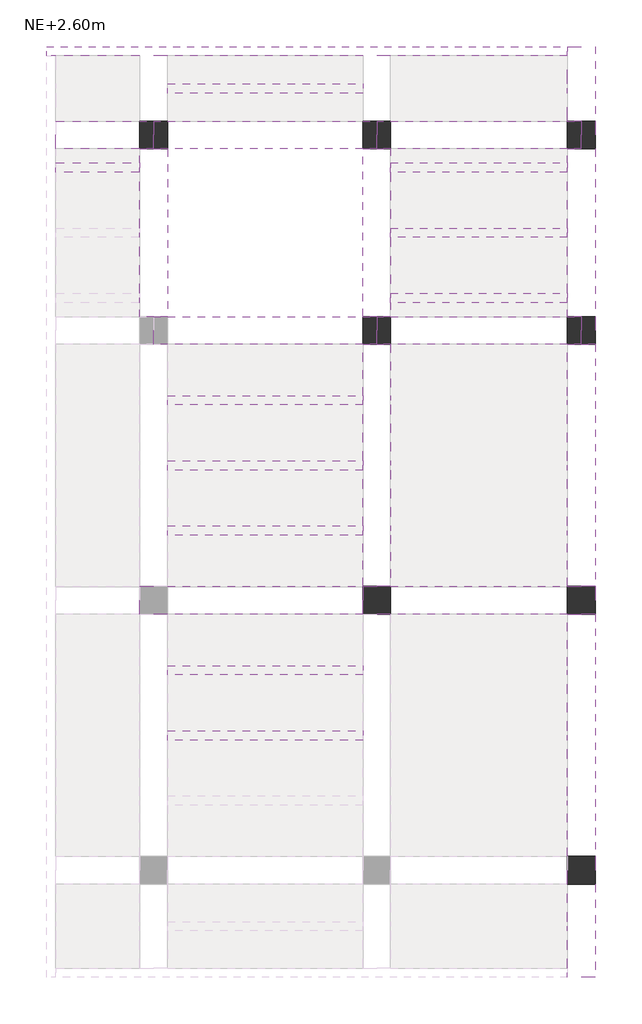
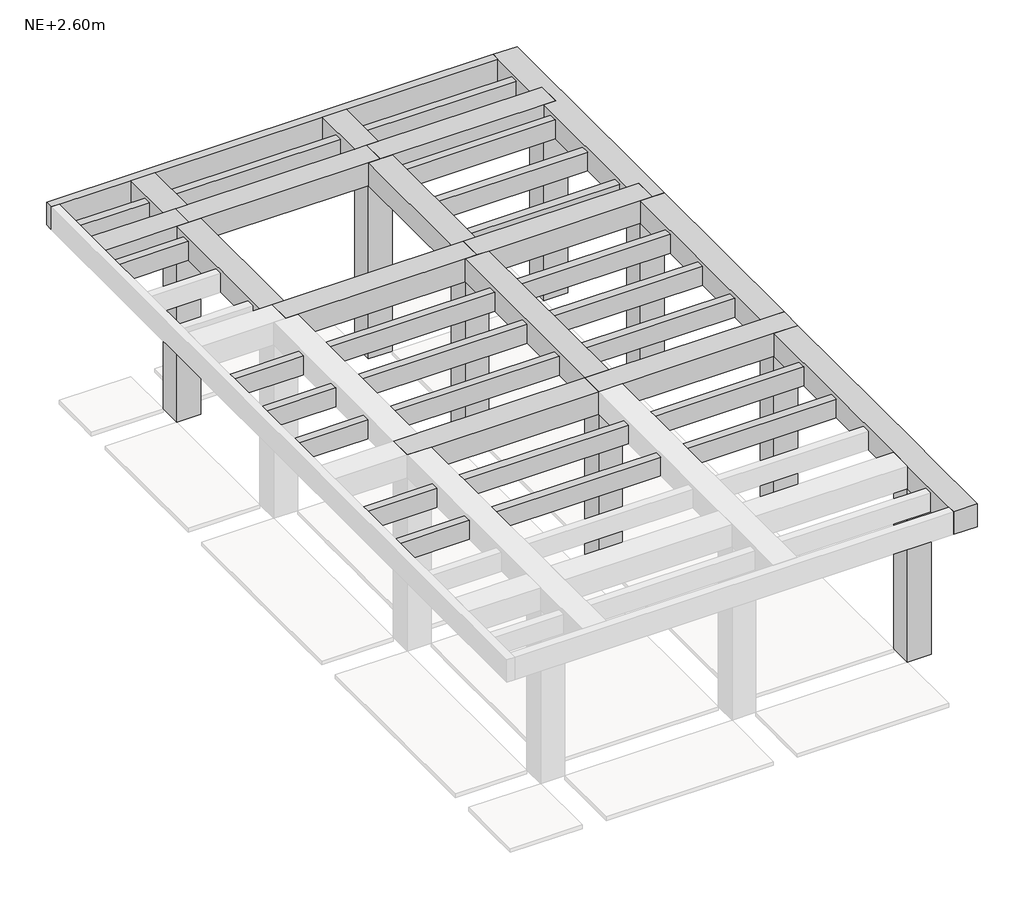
# One storey, part 2 of 2: 24 beams, 8 columns.
"""IFC4 building model written with IfcOpenShell, lengths in millimetres."""

import ifcopenshell
import ifcopenshell.guid

model = None  # the IFC model being written
_history = None  # IfcOwnerHistory: only IFC2X3 demands one
_inside = {}  # id of a spatial element -> (the spatial element, [elements in it])
_under = {}  # id of a project, library or spatial element -> (it, [spatial elements below it])
_declared = {}  # id of a project -> (the project, [libraries it declares])
_typed = {}  # id of a type object -> (the type object, [elements of that type])
_made_of = {}  # id of a material, layer set ... -> (it, [elements and type objects made of it])


def new_model(schema):
    """Start an empty IFC model of exactly this schema.

    Asked for "IFC4X3", IfcOpenShell would pick the latest addendum, in which some entities
    have other attributes; the version numbers below select the first issue.
    IFC2X3 requires an IfcOwnerHistory on every rooted entity: one is made here for all.
    """
    global model, _history
    if schema == "IFC4X3":
        model = ifcopenshell.file(schema_version=(4, 3, 0, 0))
    else:
        model = ifcopenshell.file(schema=schema)
    _inside.clear()
    _under.clear()
    _declared.clear()
    _typed.clear()
    _made_of.clear()
    _history = None
    if model.schema == "IFC2X3":
        org = make("IfcOrganization", Name="unknown")
        user = make(
            "IfcPersonAndOrganization",
            ThePerson=make("IfcPerson", FamilyName="unknown"),
            TheOrganization=org,
        )
        app = make(
            "IfcApplication",
            ApplicationDeveloper=org,
            Version="unknown",
            ApplicationFullName="unknown",
            ApplicationIdentifier="unknown",
        )
        _history = make(
            "IfcOwnerHistory",
            OwningUser=user,
            OwningApplication=app,
            ChangeAction="ADDED",
            CreationDate=0,
        )
    return model


def make(cls, **values):
    """One entity of the class cls with the attributes given. An attribute that is None is left unset."""
    return model.create_entity(
        cls, **{name: value for name, value in values.items() if value is not None}
    )


def rooted(cls, **values):
    """An entity with a GlobalId (a new one), such as an element, a storey or a relation."""
    return make(cls, GlobalId=ifcopenshell.guid.new(), OwnerHistory=_history, **values)


def si_unit(unit_type, name, prefix=None):
    """IfcSIUnit, for example si_unit("LENGTHUNIT", "METRE", prefix="MILLI")."""
    return make("IfcSIUnit", UnitType=unit_type, Prefix=prefix, Name=name)


def assignment(units):
    """IfcUnitAssignment: the units of a project."""
    return None if units is None else make("IfcUnitAssignment", Units=units)


def point(xyz):
    """IfcCartesianPoint."""
    return None if xyz is None else make("IfcCartesianPoint", Coordinates=xyz)


def direction(xyz):
    """IfcDirection."""
    return None if xyz is None else make("IfcDirection", DirectionRatios=xyz)


def frame(location, z_axis=None, x_axis=None):
    """IfcAxis2Placement3D, a coordinate frame: its origin and axes. An axis left out is left unset."""
    return make(
        "IfcAxis2Placement3D",
        Location=point(location),
        Axis=direction(z_axis),
        RefDirection=direction(x_axis),
    )


def origin():
    """The frame at (0, 0, 0) with its axes left unset."""
    return frame((0.0, 0.0, 0.0))


def place(relative_to, where):
    """IfcLocalPlacement: puts the frame where relative to a parent placement (None: the world)."""
    return make(
        "IfcLocalPlacement", PlacementRelTo=relative_to, RelativePlacement=where
    )


def context(
    kind, dimensions, precision=None, world=None, true_north=None, identifier=None
):
    """IfcGeometricRepresentationContext, for example the 3D "Model" context."""
    return make(
        "IfcGeometricRepresentationContext",
        ContextIdentifier=identifier,
        ContextType=kind,
        CoordinateSpaceDimension=dimensions,
        Precision=precision,
        WorldCoordinateSystem=world,
        TrueNorth=true_north,
    )


def project(units=None, contexts=None):
    """IfcProject with its units and contexts."""
    return rooted(
        "IfcProject",
        Name="project",
        RepresentationContexts=contexts,
        UnitsInContext=assignment(units),
    )


def spatial(cls, under=None, at=None, **own):
    """A site, building, storey or space (cls), placed at a placement, below another one or the project."""
    s = rooted(cls, ObjectPlacement=at, **own)
    if under is not None:
        _under.setdefault(under.id(), (under, []))[1].append(s)
    return s


def polyline(points):
    """IfcPolyline through the points."""
    return make("IfcPolyline", Points=[point(p) for p in points])


def outline(outer, holes=None, kind="AREA"):
    """IfcArbitraryClosedProfileDef: a profile drawn as a closed curve; with holes, ...WithVoids."""
    if holes is None:
        return make("IfcArbitraryClosedProfileDef", ProfileType=kind, OuterCurve=outer)
    return make(
        "IfcArbitraryProfileDefWithVoids",
        ProfileType=kind,
        OuterCurve=outer,
        InnerCurves=holes,
    )


def extrude(swept, where, along, depth):
    """IfcExtrudedAreaSolid: the profile swept, set in the frame where, extruded along a direction by depth."""
    return make(
        "IfcExtrudedAreaSolid",
        SweptArea=swept,
        Position=where,
        ExtrudedDirection=direction(along),
        Depth=depth,
    )


def faces_of(points, faces, orient=None, outer=None):
    """IfcFace entities. A face is a list of loops; a loop is a list of indices into points, from 0.

    orient and outer hold one flag for each loop. By default every Orientation is true, the
    first loop of a face is its IfcFaceOuterBound and the others are IfcFaceBound.
    """
    made = []
    for i, loops in enumerate(faces):
        bounds = []
        for j, loop in enumerate(loops):
            is_outer = j == 0 if outer is None else outer[i][j]
            bounds.append(
                make(
                    "IfcFaceOuterBound" if is_outer else "IfcFaceBound",
                    Bound=make("IfcPolyLoop", Polygon=[points[k] for k in loop]),
                    Orientation=True if orient is None else orient[i][j],
                )
            )
        made.append(make("IfcFace", Bounds=bounds))
    return made


def faceted_brep(points, faces, orient=None, outer=None, voids=None):
    """IfcFacetedBrep: a solid bounded by flat faces; with voids (closed shells), ...WithVoids."""
    shared = [point(p) for p in points]
    hull = make("IfcClosedShell", CfsFaces=faces_of(shared, faces, orient, outer))
    if voids is None:
        return make("IfcFacetedBrep", Outer=hull)
    return make(
        "IfcFacetedBrepWithVoids",
        Outer=hull,
        Voids=[
            make(cls, CfsFaces=faces_of(shared, fs, o, b)) for cls, fs, o, b in voids
        ],
    )


def shape(context_of_items, identifier, shape_type, items):
    """IfcShapeRepresentation: the items that make up one representation, for example the "Body"."""
    return make(
        "IfcShapeRepresentation",
        ContextOfItems=context_of_items,
        RepresentationIdentifier=identifier,
        RepresentationType=shape_type,
        Items=items,
    )


def made_of(thing, what):
    """Note that an element or type object is made of a material, layer set ...; save() writes the relation."""
    if what is not None:
        _made_of.setdefault(what.id(), (what, []))[1].append(thing)
    return thing


def element(
    cls,
    number,
    at=None,
    inside=None,
    cuts=None,
    type_object=None,
    material=None,
    context=None,
    identifier="Body",
    shape_type=None,
    held_by="IfcProductDefinitionShape",
    body=None,
    shapes=None,
    **own,
):
    """One element of the class cls, such as IfcWall. Its Tag is "e" and its number.

    at: its placement. inside: the storey or other place that contains it. cuts: it is an
    opening in that element (IfcRelVoidsElement). A single representation is given by context,
    identifier, shape_type and body (its items); several are given by shapes. held_by: the class
    of the entity that holds the representations. save() writes the other relations.
    """
    e = rooted(cls, Tag="e%d" % number, ObjectPlacement=at, **own)
    if body is not None:
        shapes = [shape(context, identifier, shape_type, body)]
    if shapes is not None:
        e.Representation = make(held_by, Representations=shapes)
    if inside is not None:
        _inside.setdefault(inside.id(), (inside, []))[1].append(e)
    if cuts is not None:
        rooted(
            "IfcRelVoidsElement", RelatingBuildingElement=cuts, RelatedOpeningElement=e
        )
    if type_object is not None:
        _typed.setdefault(type_object.id(), (type_object, []))[1].append(e)
    return made_of(e, material)


def aggregate(whole, parts):
    """IfcRelAggregates: a whole, such as a stair, and the parts it consists of."""
    return rooted("IfcRelAggregates", RelatingObject=whole, RelatedObjects=parts)


def save(model, path):
    """Write the relations noted so far, then the file.

    IfcRelAggregates (storeys below a building ...), IfcRelContainedInSpatialStructure (elements
    in a storey), IfcRelDefinesByType, IfcRelAssociatesMaterial and IfcRelDeclares: one each for
    every whole, place, type object, material and project.
    """
    for whole, parts in _under.values():
        aggregate(whole, parts)
    for where, things in _inside.values():
        rooted(
            "IfcRelContainedInSpatialStructure",
            RelatedElements=things,
            RelatingStructure=where,
        )
    for kind, things in _typed.values():
        rooted("IfcRelDefinesByType", RelatedObjects=things, RelatingType=kind)
    for what, things in _made_of.values():
        rooted("IfcRelAssociatesMaterial", RelatedObjects=things, RelatingMaterial=what)
    for by, libraries in _declared.values():
        rooted("IfcRelDeclares", RelatingContext=by, RelatedDefinitions=libraries)
    model.write(path)


model = new_model("IFC4")

# Units and contexts
model_context = context("Model", 3, world=origin())
ifc_project = project(units=[si_unit("LENGTHUNIT", "METRE", prefix="MILLI")], contexts=[model_context])

# Site, building, storey
site = spatial("IfcSite", under=ifc_project)
building = spatial("IfcBuilding", under=site)
storey = spatial("IfcBuildingStorey", under=building, Name="NE+2.60m", Elevation=2600.0)

# Beams
placement = place(None, origin())
element("IfcBeam", 1, ObjectType="Hormigón-Viga rectangular : VA (0.30x0.30m)", at=placement, inside=storey, context=model_context, shape_type="Brep", body=[
    faceted_brep([(1502.3188918, 1062.8132138, 5200.0), (1502.3188918, 762.8132138, 5200.0), (1652.3188918, 762.8132138, 5200.0), (3552.3188918, 762.8132138, 5200.0), (3702.3188918, 762.8132138, 5200.0), (3702.3188918, 1062.8132138, 5200.0), (3552.3188918, 1062.8132138, 5200.0), (1652.3188918, 1062.8132138, 5200.0), (3702.3188918, 1062.8132138, 4900.0), (3552.3188918, 1062.8132138, 4900.0), (1652.3188918, 1062.8132138, 4900.0), (1502.3188918, 1062.8132138, 4900.0), (3702.3188918, 762.8132138, 4900.0), (3552.3188918, 762.8132138, 4900.0), (1652.3188918, 762.8132138, 4900.0), (1502.3188918, 762.8132138, 4900.0)], [[[0, 1, 2, 3, 4, 5, 6, 7]], [[8, 9, 10, 11, 0, 7, 6, 5]], [[11, 10, 9, 8, 12, 13, 14, 15]], [[15, 14, 13, 12, 4, 3, 2, 1]], [[1, 0, 11, 15]], [[4, 12, 8, 5]]]),
])
element("IfcBeam", 2, ObjectType="Hormigón-Viga rectangular : VA (0.30x0.30m)", at=placement, inside=storey, context=model_context, shape_type="Brep", body=[
    faceted_brep([(-897.6811082, 762.8132138, 5200.0), (-747.6811082, 762.8132138, 5200.0), (1352.3188918, 762.8132138, 5200.0), (1502.3188918, 762.8132138, 5200.0), (1502.3188918, 1062.8132138, 5200.0), (1352.3188918, 1062.8132138, 5200.0), (-747.6811082, 1062.8132138, 5200.0), (-897.6811082, 1062.8132138, 5200.0), (1502.3188918, 1062.8132138, 4900.0), (1352.3188918, 1062.8132138, 4900.0), (-747.6811082, 1062.8132138, 4900.0), (-897.6811082, 1062.8132138, 4900.0), (1502.3188918, 762.8132138, 4900.0), (1352.3188918, 762.8132138, 4900.0), (-747.6811082, 762.8132138, 4900.0), (-897.6811082, 762.8132138, 4900.0)], [[[0, 1, 2, 3, 4, 5, 6, 7]], [[8, 9, 10, 11, 7, 6, 5, 4]], [[11, 10, 9, 8, 12, 13, 14, 15]], [[3, 2, 1, 0, 15, 14, 13, 12]], [[0, 7, 11, 15]], [[3, 12, 8, 4]]]),
])
element("IfcBeam", 3, ObjectType="Hormigón-Viga rectangular : VA (0.30x0.30m)", at=placement, inside=storey, context=model_context, shape_type="Brep", body=[
    faceted_brep([(-897.6811082, 762.8132138, 5200.0), (-897.6811082, 1062.8132138, 5200.0), (-1047.6811082, 1062.8132138, 5200.0), (-1947.6811082, 1062.8132138, 5200.0), (-1947.6811082, 762.8132138, 5200.0), (-1047.6811082, 762.8132138, 5200.0), (-897.6811082, 1062.8132138, 4900.0), (-1047.6811082, 1062.8132138, 4900.0), (-1947.6811082, 1062.8132138, 4900.0), (-1947.6811082, 1062.8132138, 5150.0), (-897.6811082, 762.8132138, 4900.0), (-1047.6811082, 762.8132138, 4900.0), (-1947.6811082, 762.8132138, 4900.0), (-1947.6811082, 762.8132138, 5150.0)], [[[0, 1, 2, 3, 4, 5]], [[1, 6, 7, 8, 9, 3, 2]], [[6, 10, 11, 12, 8, 7]], [[10, 0, 5, 4, 13, 12, 11]], [[0, 10, 6, 1]], [[4, 3, 9, 8, 12, 13]]]),
])
element("IfcBeam", 4, ObjectType="Hormigón-Viga rectangular : VA (0.30x0.30m)", at=placement, inside=storey, context=model_context, shape_type="Brep", body=[
    faceted_brep([(1502.3188918, -1037.1867862, 5200.0), (1502.3188918, -1337.1867862, 5200.0), (1652.3188918, -1337.1867862, 5200.0), (3552.3188918, -1337.1867862, 5200.0), (3702.3188918, -1337.1867862, 5200.0), (3702.3188918, -1037.1867862, 5200.0), (3552.3188918, -1037.1867862, 5200.0), (1652.3188918, -1037.1867862, 5200.0), (3702.3188918, -1037.1867862, 4900.0), (3552.3188918, -1037.1867862, 4900.0), (1652.3188918, -1037.1867862, 4900.0), (1502.3188918, -1037.1867862, 4900.0), (3702.3188918, -1337.1867862, 4900.0), (3552.3188918, -1337.1867862, 4900.0), (1652.3188918, -1337.1867862, 4900.0), (1502.3188918, -1337.1867862, 4900.0)], [[[0, 1, 2, 3, 4, 5, 6, 7]], [[8, 9, 10, 11, 0, 7, 6, 5]], [[11, 10, 9, 8, 12, 13, 14, 15]], [[15, 14, 13, 12, 4, 3, 2, 1]], [[1, 0, 11, 15]], [[4, 12, 8, 5]]]),
])
element("IfcBeam", 5, ObjectType="Hormigón-Viga rectangular : VA (0.30x0.30m)", at=placement, inside=storey, context=model_context, shape_type="Brep", body=[
    faceted_brep([(1502.3188918, -1037.1867862, 5200.0), (1352.3188918, -1037.1867862, 5200.0), (-747.6811082, -1037.1867862, 5200.0), (-897.6811082, -1037.1867862, 5200.0), (-897.6811082, -1337.1867862, 5200.0), (-747.6811082, -1337.1867862, 5200.0), (1352.3188918, -1337.1867862, 5200.0), (1502.3188918, -1337.1867862, 5200.0), (1502.3188918, -1037.1867862, 4900.0), (1352.3188918, -1037.1867862, 4900.0), (-747.6811082, -1037.1867862, 4900.0), (-897.6811082, -1037.1867862, 4900.0), (1502.3188918, -1337.1867862, 4900.0), (1352.3188918, -1337.1867862, 4900.0), (-747.6811082, -1337.1867862, 4900.0), (-897.6811082, -1337.1867862, 4900.0)], [[[0, 1, 2, 3, 4, 5, 6, 7]], [[3, 2, 1, 0, 8, 9, 10, 11]], [[11, 10, 9, 8, 12, 13, 14, 15]], [[15, 14, 13, 12, 7, 6, 5, 4]], [[4, 3, 11, 15]], [[7, 12, 8, 0]]]),
])
element("IfcBeam", 6, ObjectType="Hormigón-Viga rectangular : VA (0.30x0.30m)", at=placement, inside=storey, context=model_context, shape_type="Brep", body=[
    faceted_brep([(3852.3188918, -4237.1867862, 5200.0), (3852.3188918, -3937.1867862, 5200.0), (3552.3188918, -3937.1867862, 5200.0), (1652.3188918, -3937.1867862, 5200.0), (1352.3188918, -3937.1867862, 5200.0), (1352.3188918, -4237.1867862, 5200.0), (1652.3188918, -4237.1867862, 5200.0), (3552.3188918, -4237.1867862, 5200.0), (3852.3188918, -3937.1867862, 4900.0), (3552.3188918, -3937.1867862, 4900.0), (1652.3188918, -3937.1867862, 4900.0), (1352.3188918, -3937.1867862, 4900.0), (1352.3188918, -3937.1867862, 5150.0), (3852.3188918, -4237.1867862, 4900.0), (3552.3188918, -4237.1867862, 4900.0), (1652.3188918, -4237.1867862, 4900.0), (1352.3188918, -4237.1867862, 4900.0), (1352.3188918, -4237.1867862, 5150.0)], [[[0, 1, 2, 3, 4, 5, 6, 7]], [[1, 8, 9, 10, 11, 12, 4, 3, 2]], [[8, 13, 14, 15, 16, 11, 10, 9]], [[13, 0, 7, 6, 5, 17, 16, 15, 14]], [[1, 0, 13, 8]], [[5, 4, 12, 11, 16, 17]]]),
])
element("IfcBeam", 7, ObjectType="Hormigón-Viga rectangular : VA (0.30x0.30m)", at=placement, inside=storey, context=model_context, shape_type="Brep", body=[
    faceted_brep([(1352.3188918, -4237.1867862, 5200.0), (1352.3188918, -3937.1867862, 5200.0), (-747.6811082, -3937.1867862, 5200.0), (-1047.6811082, -3937.1867862, 5200.0), (-1047.6811082, -4237.1867862, 5200.0), (-747.6811082, -4237.1867862, 5200.0), (1352.3188918, -3937.1867862, 4900.0), (-747.6811082, -3937.1867862, 4900.0), (-1047.6811082, -3937.1867862, 4900.0), (-1047.6811082, -3937.1867862, 5150.0), (1352.3188918, -3937.1867862, 5150.0), (1352.3188918, -4237.1867862, 4900.0), (-747.6811082, -4237.1867862, 4900.0), (-1047.6811082, -4237.1867862, 4900.0), (1352.3188918, -4237.1867862, 5150.0), (-1047.6811082, -4237.1867862, 5150.0)], [[[0, 1, 2, 3, 4, 5]], [[6, 7, 8, 9, 3, 2, 1, 10]], [[6, 11, 12, 13, 8, 7]], [[13, 12, 11, 14, 0, 5, 4, 15]], [[1, 0, 14, 11, 6, 10]], [[4, 3, 9, 8, 13, 15]]]),
])
element("IfcBeam", 8, ObjectType="Hormigón-Viga rectangular : VA (0.30x0.30m)", at=placement, inside=storey, context=model_context, shape_type="Brep", body=[
    faceted_brep([(3702.3188918, 762.8132138, 5200.0), (3552.3188918, 762.8132138, 5200.0), (3552.3188918, -1037.1867862, 5200.0), (3702.3188918, -1037.1867862, 5200.0), (3702.3188918, -1337.1867862, 5200.0), (3852.3188918, -1337.1867862, 5200.0), (3852.3188918, -1037.1867862, 5200.0), (3852.3188918, 762.8132138, 5200.0), (3852.3188918, 1062.8132138, 5200.0), (3852.3188918, 1862.8132138, 5200.0), (3552.3188918, 1862.8132138, 5200.0), (3552.3188918, 1762.8132138, 5200.0), (3552.3188918, 1062.8132138, 5200.0), (3702.3188918, 1062.8132138, 5200.0), (3552.3188918, 1062.8132138, 4900.0), (3552.3188918, 1062.8132138, 5150.0), (3552.3188918, 1862.8132138, 4900.0), (3552.3188918, 1762.8132138, 4900.0), (3552.3188918, 1462.8132138, 4900.0), (3552.3188918, 1362.8132138, 4900.0), (3552.3188918, 762.8132138, 4900.0), (3702.3188918, 762.8132138, 4900.0), (3702.3188918, 1062.8132138, 4900.0), (3852.3188918, 1862.8132138, 4900.0), (3852.3188918, 1062.8132138, 4900.0), (3852.3188918, 762.8132138, 4900.0), (3852.3188918, -1037.1867862, 4900.0), (3852.3188918, -1337.1867862, 4900.0), (3702.3188918, -1337.1867862, 4900.0), (3702.3188918, -1037.1867862, 4900.0), (3552.3188918, -1037.1867862, 4900.0), (3552.3188918, -887.1867862, 4900.0), (3552.3188918, -787.1867862, 4900.0), (3552.3188918, -187.1867862, 4900.0), (3552.3188918, -87.1867862, 4900.0), (3552.3188918, 512.8132138, 4900.0), (3552.3188918, 612.8132138, 4900.0), (3552.3188918, 762.8132138, 5150.0), (3552.3188918, -1037.1867862, 5150.0)], [[[0, 1, 2, 3, 4, 5, 6, 7, 8, 9, 10, 11, 12, 13]], [[14, 15, 12, 11, 10, 16, 17, 18, 19]], [[20, 21, 22, 14, 19, 18, 17, 16, 23, 24, 25, 26, 27, 28, 29, 30, 31, 32, 33, 34, 35, 36]], [[5, 27, 26, 25, 24, 23, 9, 8, 7, 6]], [[27, 5, 4, 28]], [[0, 21, 20, 37, 1]], [[13, 22, 21, 0]], [[29, 3, 2, 38, 30]], [[3, 29, 28, 4]], [[22, 13, 12, 15, 14]], [[1, 37, 20, 36, 35, 34, 33, 32, 31, 30, 38, 2]], [[10, 9, 23, 16]]]),
])
element("IfcBeam", 9, ObjectType="Hormigón-Viga rectangular : VA (0.30x0.30m)", at=placement, inside=storey, context=model_context, shape_type="Brep", body=[
    faceted_brep([(3552.3188918, -3937.1867862, 5200.0), (3852.3188918, -3937.1867862, 5200.0), (3852.3188918, -1337.1867862, 5200.0), (3702.3188918, -1337.1867862, 5200.0), (3552.3188918, -1337.1867862, 5200.0), (3552.3188918, -3937.1867862, 4900.0), (3552.3188918, -3937.1867862, 5150.0), (3552.3188918, -1337.1867862, 5150.0), (3552.3188918, -1337.1867862, 4900.0), (3552.3188918, -1887.1867862, 4900.0), (3552.3188918, -1987.1867862, 4900.0), (3552.3188918, -2587.1867862, 4900.0), (3552.3188918, -2687.1867862, 4900.0), (3552.3188918, -3287.1867862, 4900.0), (3552.3188918, -3387.1867862, 4900.0), (3852.3188918, -3937.1867862, 4900.0), (3702.3188918, -1337.1867862, 4900.0), (3852.3188918, -1337.1867862, 4900.0)], [[[0, 1, 2, 3, 4]], [[5, 6, 0, 4, 7, 8, 9, 10, 11, 12, 13, 14]], [[15, 5, 14, 13, 12, 11, 10, 9, 8, 16, 17]], [[1, 15, 17, 2]], [[1, 0, 6, 5, 15]], [[2, 17, 16, 8, 7, 4, 3]]]),
])
element("IfcBeam", 10, ObjectType="Hormigón-Viga rectangular : VA (0.30x0.30m)", at=placement, inside=storey, context=model_context, shape_type="Brep", body=[
    faceted_brep([(3552.3188918, -8137.1867862, 5200.0), (3852.3188918, -8137.1867862, 5200.0), (3852.3188918, -7137.1867862, 5200.0), (3852.3188918, -6837.1867862, 5200.0), (3852.3188918, -4237.1867862, 5200.0), (3552.3188918, -4237.1867862, 5200.0), (3552.3188918, -6837.1867862, 5200.0), (3552.3188918, -7137.1867862, 5200.0), (3552.3188918, -8037.1867862, 5200.0), (3552.3188918, -8137.1867862, 4900.0), (3552.3188918, -4237.1867862, 5150.0), (3552.3188918, -4237.1867862, 4900.0), (3552.3188918, -4787.1867862, 4900.0), (3552.3188918, -4887.1867862, 4900.0), (3552.3188918, -5487.1867862, 4900.0), (3552.3188918, -5587.1867862, 4900.0), (3552.3188918, -6187.1867862, 4900.0), (3552.3188918, -6287.1867862, 4900.0), (3552.3188918, -6837.1867862, 4900.0), (3552.3188918, -7137.1867862, 4900.0), (3552.3188918, -7537.1867862, 4900.0), (3552.3188918, -7637.1867862, 4900.0), (3552.3188918, -8037.1867862, 4900.0), (3852.3188918, -8137.1867862, 4900.0), (3852.3188918, -4237.1867862, 4900.0), (3852.3188918, -6837.1867862, 4900.0), (3852.3188918, -7137.1867862, 4900.0)], [[[0, 1, 2, 3, 4, 5, 6, 7, 8]], [[9, 0, 8, 7, 6, 5, 10, 11, 12, 13, 14, 15, 16, 17, 18, 19, 20, 21, 22]], [[23, 9, 22, 21, 20, 19, 18, 17, 16, 15, 14, 13, 12, 11, 24, 25, 26]], [[1, 23, 26, 25, 24, 4, 3, 2]], [[5, 4, 24, 11, 10]], [[1, 0, 9, 23]]]),
])
element("IfcBeam", 11, ObjectType="Hormigón-Viga rectangular : VA (0.30x0.30m)", at=placement, inside=storey, context=model_context, shape_type="Brep", body=[
    faceted_brep([(1352.3188918, -3937.1867862, 5200.0), (1652.3188918, -3937.1867862, 5200.0), (1652.3188918, -1337.1867862, 5200.0), (1502.3188918, -1337.1867862, 5200.0), (1352.3188918, -1337.1867862, 5200.0), (1652.3188918, -3937.1867862, 5150.0), (1652.3188918, -3937.1867862, 4900.0), (1652.3188918, -3387.1867862, 4900.0), (1652.3188918, -3287.1867862, 4900.0), (1652.3188918, -2687.1867862, 4900.0), (1652.3188918, -2587.1867862, 4900.0), (1652.3188918, -1987.1867862, 4900.0), (1652.3188918, -1887.1867862, 4900.0), (1652.3188918, -1337.1867862, 4900.0), (1652.3188918, -1337.1867862, 5150.0), (1352.3188918, -3937.1867862, 4900.0), (1352.3188918, -3387.1867862, 4900.0), (1352.3188918, -3287.1867862, 4900.0), (1352.3188918, -2687.1867862, 4900.0), (1352.3188918, -2587.1867862, 4900.0), (1352.3188918, -1987.1867862, 4900.0), (1352.3188918, -1887.1867862, 4900.0), (1352.3188918, -1337.1867862, 4900.0), (1502.3188918, -1337.1867862, 4900.0), (1352.3188918, -1337.1867862, 5150.0), (1352.3188918, -3937.1867862, 5150.0)], [[[0, 1, 2, 3, 4]], [[2, 1, 5, 6, 7, 8, 9, 10, 11, 12, 13, 14]], [[6, 15, 16, 17, 18, 19, 20, 21, 22, 23, 13, 12, 11, 10, 9, 8, 7]], [[0, 4, 24, 22, 21, 20, 19, 18, 17, 16, 15, 25]], [[1, 0, 25, 15, 6, 5]], [[4, 3, 2, 14, 13, 23, 22, 24]]]),
])
element("IfcBeam", 12, ObjectType="Hormigón-Viga rectangular : VA (0.30x0.30m)", at=placement, inside=storey, context=model_context, shape_type="Brep", body=[
    faceted_brep([(1352.3188918, -1037.1867862, 5200.0), (1502.3188918, -1037.1867862, 5200.0), (1652.3188918, -1037.1867862, 5200.0), (1652.3188918, 762.8132138, 5200.0), (1502.3188918, 762.8132138, 5200.0), (1352.3188918, 762.8132138, 5200.0), (1652.3188918, -1037.1867862, 5150.0), (1652.3188918, -1037.1867862, 4900.0), (1652.3188918, -887.1867862, 4900.0), (1652.3188918, -787.1867862, 4900.0), (1652.3188918, -187.1867862, 4900.0), (1652.3188918, -87.1867862, 4900.0), (1652.3188918, 512.8132138, 4900.0), (1652.3188918, 612.8132138, 4900.0), (1652.3188918, 762.8132138, 4900.0), (1652.3188918, 762.8132138, 5150.0), (1502.3188918, -1037.1867862, 4900.0), (1352.3188918, -1037.1867862, 4900.0), (1352.3188918, 762.8132138, 4900.0), (1502.3188918, 762.8132138, 4900.0)], [[[0, 1, 2, 3, 4, 5]], [[3, 2, 6, 7, 8, 9, 10, 11, 12, 13, 14, 15]], [[7, 16, 17, 18, 19, 14, 13, 12, 11, 10, 9, 8]], [[17, 0, 5, 18]], [[18, 5, 4, 3, 15, 14, 19]], [[0, 17, 16, 7, 6, 2, 1]]]),
    faceted_brep([(1652.3188918, 1062.8132138, 5200.0), (1502.3188918, 1062.8132138, 5200.0), (1352.3188918, 1062.8132138, 5200.0), (1352.3188918, 1062.8132138, 5150.0), (1352.3188918, 1062.8132138, 4900.0), (1502.3188918, 1062.8132138, 4900.0), (1652.3188918, 1062.8132138, 4900.0), (1652.3188918, 1062.8132138, 5150.0), (1652.3188918, 1762.8132138, 5200.0), (1652.3188918, 1362.8132138, 4900.0), (1652.3188918, 1462.8132138, 4900.0), (1652.3188918, 1762.8132138, 4900.0), (1652.3188918, 1762.8132138, 5150.0), (1352.3188918, 1762.8132138, 5200.0), (1352.3188918, 1362.8132138, 4900.0), (1352.3188918, 1462.8132138, 4900.0), (1352.3188918, 1762.8132138, 4900.0), (1352.3188918, 1762.8132138, 5150.0)], [[[0, 1, 2, 3, 4, 5, 6, 7]], [[8, 0, 7, 6, 9, 10, 11, 12]], [[2, 1, 0, 8, 13]], [[6, 5, 4, 14, 15, 16, 11, 10, 9]], [[2, 13, 17, 16, 15, 14, 4, 3]], [[13, 8, 12, 11, 16, 17]]]),
])
element("IfcBeam", 13, ObjectType="Hormigón-Viga rectangular : VA (0.30x0.30m)", at=placement, inside=storey, context=model_context, shape_type="Brep", body=[
    faceted_brep([(-1047.6811082, 1062.8132138, 5200.0), (-897.6811082, 1062.8132138, 5200.0), (-747.6811082, 1062.8132138, 5200.0), (-747.6811082, 1762.8132138, 5200.0), (-1047.6811082, 1762.8132138, 5200.0), (-1047.6811082, 1762.8132138, 5150.0), (-1047.6811082, 1762.8132138, 4900.0), (-1047.6811082, 1462.8132138, 4900.0), (-1047.6811082, 1362.8132138, 4900.0), (-1047.6811082, 1062.8132138, 4900.0), (-1047.6811082, 1062.8132138, 5150.0), (-747.6811082, 1062.8132138, 4900.0), (-897.6811082, 1062.8132138, 4900.0), (-747.6811082, 1762.8132138, 4900.0), (-747.6811082, 1462.8132138, 4900.0), (-747.6811082, 1362.8132138, 4900.0), (-747.6811082, 1762.8132138, 5150.0), (-747.6811082, 1062.8132138, 5150.0)], [[[0, 1, 2, 3, 4]], [[0, 4, 5, 6, 7, 8, 9, 10]], [[11, 12, 9, 8, 7, 6, 13, 14, 15]], [[11, 15, 14, 13, 16, 3, 2, 17]], [[2, 1, 0, 10, 9, 12, 11, 17]], [[4, 3, 16, 13, 6, 5]]]),
    faceted_brep([(-747.6811082, 762.8132138, 5200.0), (-747.6811082, 762.8132138, 4900.0), (-897.6811082, 762.8132138, 4900.0), (-1047.6811082, 762.8132138, 4900.0), (-1047.6811082, 762.8132138, 5150.0), (-1047.6811082, 762.8132138, 5200.0), (-897.6811082, 762.8132138, 5200.0), (-747.6811082, -1037.1867862, 5200.0), (-897.6811082, -1037.1867862, 5200.0), (-1047.6811082, -1037.1867862, 5200.0), (-1047.6811082, -1037.1867862, 5150.0), (-1047.6811082, -1037.1867862, 4900.0), (-897.6811082, -1037.1867862, 4900.0), (-747.6811082, -1037.1867862, 4900.0), (-1047.6811082, 612.8132138, 4900.0), (-1047.6811082, 512.8132138, 4900.0), (-1047.6811082, -87.1867862, 4900.0), (-1047.6811082, -187.1867862, 4900.0), (-1047.6811082, -787.1867862, 4900.0), (-1047.6811082, -887.1867862, 4900.0)], [[[0, 1, 2, 3, 4, 5, 6]], [[7, 8, 9, 10, 11, 12, 13]], [[1, 0, 7, 13]], [[9, 8, 7, 0, 6, 5]], [[9, 5, 4, 3, 14, 15, 16, 17, 18, 19, 11, 10]], [[13, 12, 11, 19, 18, 17, 16, 15, 14, 3, 2, 1]]]),
])
element("IfcBeam", 14, ObjectType="Hormigón-Viga rectangular : VB (0.10x0.30m)", at=placement, inside=storey, context=model_context, shape_type="Brep", body=[
    faceted_brep([(-2047.6811082, 1862.8132138, 5200.0), (-2047.6811082, 1762.8132138, 5200.0), (-1947.6811082, 1762.8132138, 5200.0), (-1047.6811082, 1762.8132138, 5200.0), (-747.6811082, 1762.8132138, 5200.0), (1352.3188918, 1762.8132138, 5200.0), (1652.3188918, 1762.8132138, 5200.0), (3552.3188918, 1762.8132138, 5200.0), (3552.3188918, 1862.8132138, 5200.0), (-2047.6811082, 1862.8132138, 4900.0), (3552.3188918, 1862.8132138, 4900.0), (-2047.6811082, 1762.8132138, 4900.0), (3552.3188918, 1762.8132138, 4900.0), (1652.3188918, 1762.8132138, 4900.0), (1352.3188918, 1762.8132138, 4900.0), (-747.6811082, 1762.8132138, 4900.0), (-1047.6811082, 1762.8132138, 4900.0), (-1947.6811082, 1762.8132138, 4900.0), (3552.3188918, 1762.8132138, 5150.0)], [[[0, 1, 2, 3, 4, 5, 6, 7, 8]], [[9, 0, 8, 10]], [[11, 9, 10, 12, 13, 14, 15, 16, 17]], [[1, 11, 17, 16, 15, 14, 13, 12, 18, 7, 6, 5, 4, 3, 2]], [[1, 0, 9, 11]], [[8, 7, 18, 12, 10]]]),
])
element("IfcBeam", 15, ObjectType="Hormigón-Viga rectangular : VT (0.10x0.30m)", at=placement, inside=storey, context=model_context, shape_type="SweptSolid", body=[
    extrude(outline(polyline([(3552.3188918, -4787.1867862), (3552.3188918, -4887.1867862), (1652.3188918, -4887.1867862), (1652.3188918, -4787.1867862), (3552.3188918, -4787.1867862)])), frame((0.0, 0.0, 4900.0), z_axis=(0.0, 0.0, 1.0), x_axis=(1.0, 0.0, 0.0)), (0.0, 0.0, 1.0), 250.0),
    extrude(outline(polyline([(-1947.6811082, -4887.1867862), (-1947.6811082, -4787.1867862), (-1047.6811082, -4787.1867862), (-1047.6811082, -4887.1867862), (-1947.6811082, -4887.1867862)])), frame((0.0, 0.0, 4900.0), z_axis=(0.0, 0.0, 1.0), x_axis=(1.0, 0.0, 0.0)), (0.0, 0.0, 1.0), 250.0),
    extrude(outline(polyline([(1352.3188918, -4787.1867862), (1352.3188918, -4887.1867862), (-747.6811082, -4887.1867862), (-747.6811082, -4787.1867862), (1352.3188918, -4787.1867862)])), frame((0.0, 0.0, 4900.0), z_axis=(0.0, 0.0, 1.0), x_axis=(1.0, 0.0, 0.0)), (0.0, 0.0, 1.0), 250.0),
])
element("IfcBeam", 16, ObjectType="Hormigón-Viga rectangular : VT (0.10x0.30m)", at=placement, inside=storey, context=model_context, shape_type="SweptSolid", body=[
    extrude(outline(polyline([(3552.3188918, -5487.1867862), (3552.3188918, -5587.1867862), (1652.3188918, -5587.1867862), (1652.3188918, -5487.1867862), (3552.3188918, -5487.1867862)])), frame((0.0, 0.0, 4900.0), z_axis=(0.0, 0.0, 1.0), x_axis=(1.0, 0.0, 0.0)), (0.0, 0.0, 1.0), 250.0),
    extrude(outline(polyline([(-1947.6811082, -5587.1867862), (-1947.6811082, -5487.1867862), (-1047.6811082, -5487.1867862), (-1047.6811082, -5587.1867862), (-1947.6811082, -5587.1867862)])), frame((0.0, 0.0, 4900.0), z_axis=(0.0, 0.0, 1.0), x_axis=(1.0, 0.0, 0.0)), (0.0, 0.0, 1.0), 250.0),
    extrude(outline(polyline([(1352.3188918, -5487.1867862), (1352.3188918, -5587.1867862), (-747.6811082, -5587.1867862), (-747.6811082, -5487.1867862), (1352.3188918, -5487.1867862)])), frame((0.0, 0.0, 4900.0), z_axis=(0.0, 0.0, 1.0), x_axis=(1.0, 0.0, 0.0)), (0.0, 0.0, 1.0), 250.0),
])
element("IfcBeam", 17, ObjectType="Hormigón-Viga rectangular : VT (0.10x0.30m)", at=placement, inside=storey, context=model_context, shape_type="SweptSolid", body=[
    extrude(outline(polyline([(3552.3188918, -1887.1867862), (3552.3188918, -1987.1867862), (1652.3188918, -1987.1867862), (1652.3188918, -1887.1867862), (3552.3188918, -1887.1867862)])), frame((0.0, 0.0, 4900.0), z_axis=(0.0, 0.0, 1.0), x_axis=(1.0, 0.0, 0.0)), (0.0, 0.0, 1.0), 250.0),
    extrude(outline(polyline([(-1947.6811082, -1987.1867862), (-1947.6811082, -1887.1867862), (-1047.6811082, -1887.1867862), (-1047.6811082, -1987.1867862), (-1947.6811082, -1987.1867862)])), frame((0.0, 0.0, 4900.0), z_axis=(0.0, 0.0, 1.0), x_axis=(1.0, 0.0, 0.0)), (0.0, 0.0, 1.0), 250.0),
    extrude(outline(polyline([(1352.3188918, -1887.1867862), (1352.3188918, -1987.1867862), (-747.6811082, -1987.1867862), (-747.6811082, -1887.1867862), (1352.3188918, -1887.1867862)])), frame((0.0, 0.0, 4900.0), z_axis=(0.0, 0.0, 1.0), x_axis=(1.0, 0.0, 0.0)), (0.0, 0.0, 1.0), 250.0),
])
element("IfcBeam", 18, ObjectType="Hormigón-Viga rectangular : VT (0.10x0.30m)", at=placement, inside=storey, context=model_context, shape_type="SweptSolid", body=[
    extrude(outline(polyline([(3552.3188918, -2587.1867862), (3552.3188918, -2687.1867862), (1652.3188918, -2687.1867862), (1652.3188918, -2587.1867862), (3552.3188918, -2587.1867862)])), frame((0.0, 0.0, 4900.0), z_axis=(0.0, 0.0, 1.0), x_axis=(1.0, 0.0, 0.0)), (0.0, 0.0, 1.0), 250.0),
    extrude(outline(polyline([(-1947.6811082, -2687.1867862), (-1947.6811082, -2587.1867862), (-1047.6811082, -2587.1867862), (-1047.6811082, -2687.1867862), (-1947.6811082, -2687.1867862)])), frame((0.0, 0.0, 4900.0), z_axis=(0.0, 0.0, 1.0), x_axis=(1.0, 0.0, 0.0)), (0.0, 0.0, 1.0), 250.0),
    extrude(outline(polyline([(1352.3188918, -2587.1867862), (1352.3188918, -2687.1867862), (-747.6811082, -2687.1867862), (-747.6811082, -2587.1867862), (1352.3188918, -2587.1867862)])), frame((0.0, 0.0, 4900.0), z_axis=(0.0, 0.0, 1.0), x_axis=(1.0, 0.0, 0.0)), (0.0, 0.0, 1.0), 250.0),
])
element("IfcBeam", 19, ObjectType="Hormigón-Viga rectangular : VT (0.10x0.30m)", at=placement, inside=storey, context=model_context, shape_type="SweptSolid", body=[
    extrude(outline(polyline([(3552.3188918, -3287.1867862), (3552.3188918, -3387.1867862), (1652.3188918, -3387.1867862), (1652.3188918, -3287.1867862), (3552.3188918, -3287.1867862)])), frame((0.0, 0.0, 4900.0), z_axis=(0.0, 0.0, 1.0), x_axis=(1.0, 0.0, 0.0)), (0.0, 0.0, 1.0), 250.0),
    extrude(outline(polyline([(-1947.6811082, -3387.1867862), (-1947.6811082, -3287.1867862), (-1047.6811082, -3287.1867862), (-1047.6811082, -3387.1867862), (-1947.6811082, -3387.1867862)])), frame((0.0, 0.0, 4900.0), z_axis=(0.0, 0.0, 1.0), x_axis=(1.0, 0.0, 0.0)), (0.0, 0.0, 1.0), 250.0),
    extrude(outline(polyline([(1352.3188918, -3287.1867862), (1352.3188918, -3387.1867862), (-747.6811082, -3387.1867862), (-747.6811082, -3287.1867862), (1352.3188918, -3287.1867862)])), frame((0.0, 0.0, 4900.0), z_axis=(0.0, 0.0, 1.0), x_axis=(1.0, 0.0, 0.0)), (0.0, 0.0, 1.0), 250.0),
])
element("IfcBeam", 20, ObjectType="Hormigón-Viga rectangular : VT (0.10x0.30m)", at=placement, inside=storey, context=model_context, shape_type="SweptSolid", body=[
    extrude(outline(polyline([(-1047.6811082, 612.8132138), (-1047.6811082, 512.8132138), (-1947.6811082, 512.8132138), (-1947.6811082, 612.8132138), (-1047.6811082, 612.8132138)])), frame((0.0, 0.0, 4900.0), z_axis=(0.0, 0.0, 1.0), x_axis=(1.0, 0.0, 0.0)), (0.0, 0.0, 1.0), 250.0),
])
element("IfcBeam", 21, ObjectType="Hormigón-Viga rectangular : VT (0.10x0.30m)", at=placement, inside=storey, context=model_context, shape_type="SweptSolid", body=[
    extrude(outline(polyline([(3552.3188918, 612.8132138), (3552.3188918, 512.8132138), (1652.3188918, 512.8132138), (1652.3188918, 612.8132138), (3552.3188918, 612.8132138)])), frame((0.0, 0.0, 4900.0), z_axis=(0.0, 0.0, 1.0), x_axis=(1.0, 0.0, 0.0)), (0.0, 0.0, 1.0), 250.0),
])
element("IfcBeam", 22, ObjectType="Hormigón-Viga rectangular : VT (0.10x0.30m)", at=placement, inside=storey, context=model_context, shape_type="SweptSolid", body=[
    extrude(outline(polyline([(3552.3188918, -87.1867862), (3552.3188918, -187.1867862), (1652.3188918, -187.1867862), (1652.3188918, -87.1867862), (3552.3188918, -87.1867862)])), frame((0.0, 0.0, 4900.0), z_axis=(0.0, 0.0, 1.0), x_axis=(1.0, 0.0, 0.0)), (0.0, 0.0, 1.0), 250.0),
])
element("IfcBeam", 23, ObjectType="Hormigón-Viga rectangular : VT (0.10x0.30m)", at=placement, inside=storey, context=model_context, shape_type="SweptSolid", body=[
    extrude(outline(polyline([(3552.3188918, -787.1867862), (3552.3188918, -887.1867862), (1652.3188918, -887.1867862), (1652.3188918, -787.1867862), (3552.3188918, -787.1867862)])), frame((0.0, 0.0, 4900.0), z_axis=(0.0, 0.0, 1.0), x_axis=(1.0, 0.0, 0.0)), (0.0, 0.0, 1.0), 250.0),
])
element("IfcBeam", 24, ObjectType="Hormigón-Viga rectangular : VT (0.10x0.30m)", at=placement, inside=storey, context=model_context, shape_type="SweptSolid", body=[
    extrude(outline(polyline([(3552.3188918, 1462.8132138), (3552.3188918, 1362.8132138), (1652.3188918, 1362.8132138), (1652.3188918, 1462.8132138), (3552.3188918, 1462.8132138)])), frame((0.0, 0.0, 4900.0), z_axis=(0.0, 0.0, 1.0), x_axis=(1.0, 0.0, 0.0)), (0.0, 0.0, 1.0), 250.0),
    extrude(outline(polyline([(-1947.6811082, 1362.8132138), (-1947.6811082, 1462.8132138), (-1047.6811082, 1462.8132138), (-1047.6811082, 1362.8132138), (-1947.6811082, 1362.8132138)])), frame((0.0, 0.0, 4900.0), z_axis=(0.0, 0.0, 1.0), x_axis=(1.0, 0.0, 0.0)), (0.0, 0.0, 1.0), 250.0),
    extrude(outline(polyline([(1352.3188918, 1462.8132138), (1352.3188918, 1362.8132138), (-747.6811082, 1362.8132138), (-747.6811082, 1462.8132138), (1352.3188918, 1462.8132138)])), frame((0.0, 0.0, 4900.0), z_axis=(0.0, 0.0, 1.0), x_axis=(1.0, 0.0, 0.0)), (0.0, 0.0, 1.0), 250.0),
])

# Columns
element("IfcColumn", 25, ObjectType="Hormigón-Rectangular-Pilar : C1 (0.30x0.30m)", at=placement, inside=storey, context=model_context, shape_type="SweptSolid", body=[
    extrude(outline(polyline([(1652.3188918, -1037.1867862), (1652.3188918, -1337.1867862), (1352.3188918, -1337.1867862), (1352.3188918, -1037.1867862), (1652.3188918, -1037.1867862)])), frame((0.0, 0.0, 2600.0), z_axis=(0.0, 0.0, 1.0), x_axis=(1.0, 0.0, 0.0)), (0.0, 0.0, 1.0), 2300.0),
])
element("IfcColumn", 26, ObjectType="Hormigón-Rectangular-Pilar : C1 (0.30x0.30m)", at=placement, inside=storey, context=model_context, shape_type="Brep", body=[
    faceted_brep([(3852.3188918, -1037.1867862, 2600.0), (3852.3188918, -1337.1867862, 2600.0), (3552.3188918, -1337.1867862, 2600.0), (3552.3188918, -1037.1867862, 2600.0), (3852.3188918, -1037.1867862, 4900.0), (3852.3188918, -1337.1867862, 4900.0), (3702.3188918, -1337.1867862, 4900.0), (3552.3188918, -1337.1867862, 4900.0), (3552.3188918, -1037.1867862, 4900.0)], [[[0, 1, 2, 3]], [[4, 5, 1, 0]], [[5, 6, 7, 2, 1]], [[7, 8, 3, 2]], [[8, 4, 0, 3]], [[4, 8, 7, 6, 5]]]),
])
element("IfcColumn", 27, ObjectType="Hormigón-Rectangular-Pilar : C1 (0.30x0.30m)", at=placement, inside=storey, context=model_context, shape_type="SweptSolid", body=[
    extrude(outline(polyline([(1652.3188918, -3937.1867862), (1652.3188918, -4237.1867862), (1352.3188918, -4237.1867862), (1352.3188918, -3937.1867862), (1652.3188918, -3937.1867862)])), frame((0.0, 0.0, 2600.0), z_axis=(0.0, 0.0, 1.0), x_axis=(1.0, 0.0, 0.0)), (0.0, 0.0, 1.0), 2300.0),
])
element("IfcColumn", 28, ObjectType="Hormigón-Rectangular-Pilar : C1 (0.30x0.30m)", at=placement, inside=storey, context=model_context, shape_type="SweptSolid", body=[
    extrude(outline(polyline([(3852.3188918, -3937.1867862), (3852.3188918, -4237.1867862), (3552.3188918, -4237.1867862), (3552.3188918, -3937.1867862), (3852.3188918, -3937.1867862)])), frame((0.0, 0.0, 2600.0), z_axis=(0.0, 0.0, 1.0), x_axis=(1.0, 0.0, 0.0)), (0.0, 0.0, 1.0), 2300.0),
])
element("IfcColumn", 29, ObjectType="Hormigón-Rectangular-Pilar : C1 (0.30x0.30m)", at=placement, inside=storey, context=model_context, shape_type="SweptSolid", body=[
    extrude(outline(polyline([(3852.3188918, -6837.1867862), (3852.3188918, -7137.1867862), (3552.3188918, -7137.1867862), (3552.3188918, -6837.1867862), (3852.3188918, -6837.1867862)])), frame((0.0, 0.0, 2600.0), z_axis=(0.0, 0.0, 1.0), x_axis=(1.0, 0.0, 0.0)), (0.0, 0.0, 1.0), 2300.0),
])
element("IfcColumn", 30, ObjectType="Hormigón-Rectangular-Pilar : C1 (0.30x0.30m)", at=placement, inside=storey, context=model_context, shape_type="SweptSolid", body=[
    extrude(outline(polyline([(-747.6811082, 1062.8132138), (-747.6811082, 762.8132138), (-1047.6811082, 762.8132138), (-1047.6811082, 1062.8132138), (-747.6811082, 1062.8132138)])), frame((0.0, 0.0, 2600.0), z_axis=(0.0, 0.0, 1.0), x_axis=(1.0, 0.0, 0.0)), (0.0, 0.0, 1.0), 2300.0),
])
element("IfcColumn", 31, ObjectType="Hormigón-Rectangular-Pilar : C1 (0.30x0.30m)", at=placement, inside=storey, context=model_context, shape_type="SweptSolid", body=[
    extrude(outline(polyline([(1652.3188918, 1062.8132138), (1652.3188918, 762.8132138), (1352.3188918, 762.8132138), (1352.3188918, 1062.8132138), (1652.3188918, 1062.8132138)])), frame((0.0, 0.0, 2600.0), z_axis=(0.0, 0.0, 1.0), x_axis=(1.0, 0.0, 0.0)), (0.0, 0.0, 1.0), 2300.0),
])
element("IfcColumn", 32, ObjectType="Hormigón-Rectangular-Pilar : C1 (0.30x0.30m)", at=placement, inside=storey, context=model_context, shape_type="SweptSolid", body=[
    extrude(outline(polyline([(3852.3188918, 1062.8132138), (3852.3188918, 762.8132138), (3552.3188918, 762.8132138), (3552.3188918, 1062.8132138), (3852.3188918, 1062.8132138)])), frame((0.0, 0.0, 2600.0), z_axis=(0.0, 0.0, 1.0), x_axis=(1.0, 0.0, 0.0)), (0.0, 0.0, 1.0), 2300.0),
])

save(model, "model.ifc")
